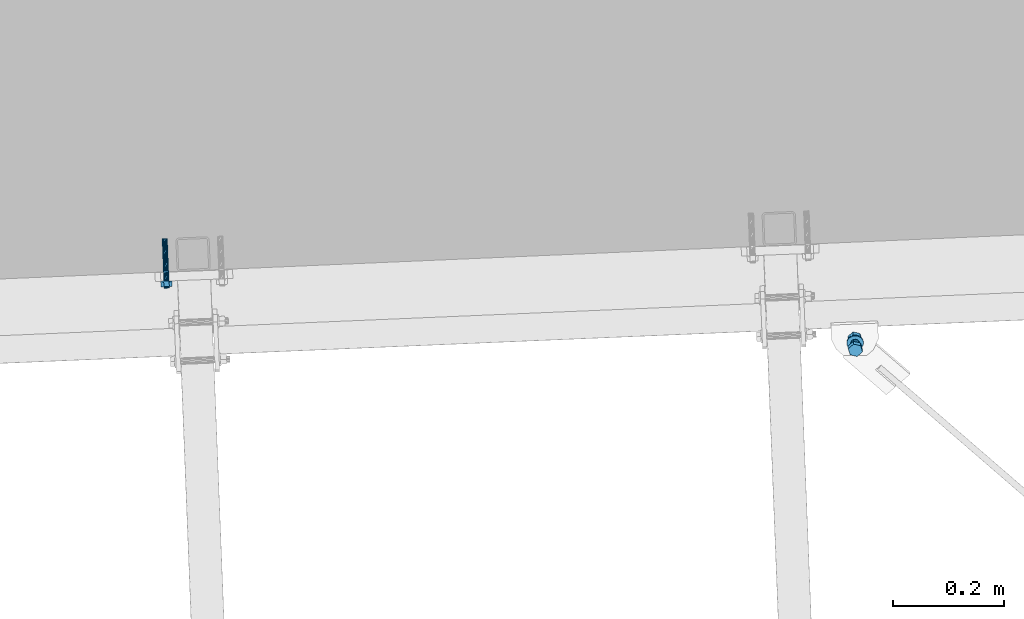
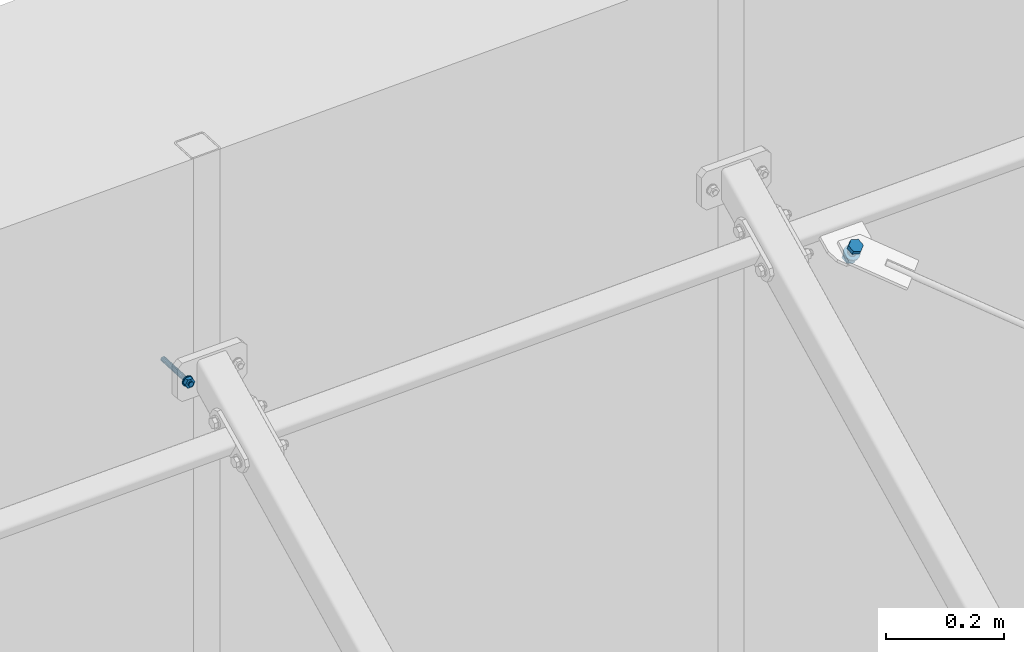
# One storey, part 266 of 288: 2 mechanical fasteners.
"""IFC2X3 building model written with IfcOpenShell, lengths in millimetres."""

from ifc_helpers import new_model, entity, si_unit, converted_unit, origin_with_axes, place, context, project, spatial, faceted_brep, element, save


model = new_model("IFC2X3")

# Units and contexts
model_context = context("Model", 3, precision=1e-09, world=origin_with_axes())
ifc_project = project(units=[si_unit("LENGTHUNIT", "METRE", prefix="MILLI"), si_unit("AREAUNIT", "SQUARE_METRE"), si_unit("VOLUMEUNIT", "CUBIC_METRE"), converted_unit("PLANEANGLEUNIT", "DEGREE", entity("IfcPlaneAngleMeasure", 0.01745329), si_unit("PLANEANGLEUNIT", "RADIAN"), dimensions=[0, 0, 0, 0, 0, 0, 0])], contexts=[model_context])

# Site, building, storey
site_placement = place(None, origin_with_axes())
site = spatial("IfcSite", under=ifc_project, at=site_placement, Name="Remont ?wietlik?w nad MC w NCPP w Opolu", CompositionType="ELEMENT")
building_placement = place(site_placement, origin_with_axes())
building = spatial("IfcBuilding", under=site, at=building_placement, Name="Konstrukcja 1", CompositionType="ELEMENT")
storey_placement = place(building_placement, origin_with_axes())
storey = spatial("IfcBuildingStorey", under=building, at=storey_placement, Name="Default Storey", CompositionType="ELEMENT", Elevation=0.0)

# Mechanical fasteners
mechanical_fastener_1_placement = place(None, origin_with_axes())
element("IfcMechanicalFastener", 1, at=mechanical_fastener_1_placement, inside=storey, ObjectType="Anchor_Bolt", NominalDiameter=10.0, NominalLength=90.0, context=model_context, shape_type="Brep", body=[
    faceted_brep([(5474.513703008, 15768.755077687, 1298.012418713), (5474.434916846, 15770.75352527, 1298.012418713), (5472.388058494, 15770.672830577, 1297.810664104), (5472.466844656, 15768.674382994, 1297.810664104), (5470.41985977, 15770.595236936, 1297.213153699), (5470.498645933, 15768.596789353, 1297.213153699), (5468.605957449, 15770.523726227, 1296.24284949), (5468.684743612, 15768.525278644, 1296.24284949), (5467.016058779, 15770.461046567, 1294.937039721), (5467.094844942, 15768.462598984, 1294.937039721), (5465.711262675, 15770.4096067, 1293.345905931), (5465.790048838, 15768.411159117, 1293.345905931), (5464.741711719, 15770.371383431, 1291.530594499), (5464.820497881, 15768.372935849, 1291.530594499), (5464.14466521, 15770.347845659, 1289.560866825), (5464.223451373, 15768.349398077, 1289.560866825), (5463.943067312, 15770.339897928, 1287.512418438), (5464.021853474, 15768.341450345, 1287.512418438), (5464.144665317, 15770.347845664, 1285.463970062), (5464.22345148, 15768.349398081, 1285.463970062), (5464.741711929, 15770.371383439, 1283.494242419), (5464.820498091, 15768.372935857, 1283.494242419), (5465.71126298, 15770.409606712, 1281.678931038), (5465.790049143, 15768.411159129, 1281.678931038), (5467.016059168, 15770.461046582, 1280.087797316), (5467.09484533, 15768.462599, 1280.087797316), (5468.605957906, 15770.523726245, 1278.781987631), (5468.684744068, 15768.525278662, 1278.781987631), (5470.419860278, 15770.595236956, 1277.811683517), (5470.49864644, 15768.596789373, 1277.811683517), (5472.388059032, 15770.672830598, 1277.214173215), (5472.466845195, 15768.674383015, 1277.214173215), (5474.434917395, 15770.753525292, 1277.012418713), (5474.513703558, 15768.755077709, 1277.012418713), (5476.481775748, 15770.834219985, 1277.214173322), (5476.56056191, 15768.835772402, 1277.214173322), (5478.449974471, 15770.911813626, 1277.811683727), (5478.528760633, 15768.913366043, 1277.811683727), (5480.263876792, 15770.983324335, 1278.781987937), (5480.342662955, 15768.984876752, 1278.781987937), (5481.853775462, 15771.046003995, 1280.087797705), (5481.932561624, 15769.047556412, 1280.087797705), (5483.158571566, 15771.097443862, 1281.678931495), (5483.237357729, 15769.098996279, 1281.678931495), (5484.128122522, 15771.13566713, 1283.494242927), (5484.206908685, 15769.137219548, 1283.494242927), (5484.725169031, 15771.159204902, 1285.463970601), (5484.803955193, 15769.16075732, 1285.463970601), (5484.92676693, 15771.167152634, 1287.512418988), (5485.005553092, 15769.168705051, 1287.512418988), (5484.725168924, 15771.159204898, 1289.560867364), (5484.803955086, 15769.160757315, 1289.560867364), (5484.128122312, 15771.135667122, 1291.530595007), (5484.206908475, 15769.137219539, 1291.530595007), (5483.158571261, 15771.09744385, 1293.345906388), (5483.237357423, 15769.098996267, 1293.345906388), (5481.853775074, 15771.046003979, 1294.93704011), (5481.932561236, 15769.047556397, 1294.93704011), (5480.263876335, 15770.983324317, 1296.242849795), (5480.342662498, 15768.984876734, 1296.242849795), (5478.449973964, 15770.911813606, 1297.21315391), (5478.528760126, 15768.913366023, 1297.21315391), (5476.481775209, 15770.834219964, 1297.810664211), (5476.560561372, 15768.835772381, 1297.810664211)], [[[0, 1, 2, 3]], [[3, 2, 4, 5]], [[5, 4, 6, 7]], [[7, 6, 8, 9]], [[9, 8, 10, 11]], [[11, 10, 12, 13]], [[13, 12, 14, 15]], [[15, 14, 16, 17]], [[17, 16, 18, 19]], [[19, 18, 20, 21]], [[21, 20, 22, 23]], [[23, 22, 24, 25]], [[25, 24, 26, 27]], [[27, 26, 28, 29]], [[29, 28, 30, 31]], [[31, 30, 32, 33]], [[33, 32, 34, 35]], [[35, 34, 36, 37]], [[37, 36, 38, 39]], [[39, 38, 40, 41]], [[41, 40, 42, 43]], [[43, 42, 44, 45]], [[45, 44, 46, 47]], [[47, 46, 48, 49]], [[49, 48, 50, 51]], [[51, 50, 52, 53]], [[53, 52, 54, 55]], [[55, 54, 56, 57]], [[57, 56, 58, 59]], [[59, 58, 60, 61]], [[61, 60, 62, 63]], [[63, 62, 1, 0]], [[0, 3, 5, 7, 9, 11, 13, 15, 17, 19, 21, 23, 25, 27, 29, 31, 33, 35, 37, 39, 41, 43, 45, 47, 49, 51, 53, 55, 57, 59, 61, 63]], [[1, 62, 60, 58, 56, 54, 52, 50, 48, 46, 44, 42, 40, 38, 36, 34, 32, 30, 28, 26, 24, 22, 20, 18, 16, 14, 12, 10, 8, 6, 4, 2]]]),
    faceted_brep([(5469.617506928, 15768.562051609, 1279.025369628), (5469.932651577, 15760.568261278, 1279.025369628), (5465.036454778, 15760.375235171, 1287.512418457), (5464.721310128, 15768.369025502, 1287.512418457), (5469.932651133, 15760.568261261, 1295.999467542), (5469.617506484, 15768.562051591, 1295.999467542), (5479.725044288, 15760.954313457, 1295.999467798), (5479.409899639, 15768.948103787, 1295.999467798), (5484.621241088, 15761.147339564, 1287.51241897), (5484.306096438, 15769.141129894, 1287.51241897), (5479.725044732, 15760.954313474, 1279.025369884), (5479.409900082, 15768.948103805, 1279.025369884)], [[[0, 1, 2, 3]], [[3, 2, 4, 5]], [[5, 4, 6, 7]], [[7, 6, 8, 9]], [[9, 8, 10, 11]], [[11, 10, 1, 0]], [[4, 2, 1, 10, 8, 6]], [[0, 3, 5, 7, 9, 11]]]),
    faceted_brep([(5474.947027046, 15757.763615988, 1292.512418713), (5474.828847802, 15760.761287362, 1292.512418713), (5472.916915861, 15760.685911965, 1292.131816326), (5473.035095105, 15757.688240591, 1292.131816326), (5471.296058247, 15760.62201179, 1291.047952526), (5471.41423749, 15757.624340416, 1291.047952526), (5470.213035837, 15760.579315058, 1289.425835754), (5470.331215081, 15757.581643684, 1289.425835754), (5469.832728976, 15760.564321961, 1287.512418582), (5469.95090822, 15757.566650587, 1287.512418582), (5470.213035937, 15760.579315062, 1285.59900143), (5470.331215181, 15757.581643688, 1285.59900143), (5471.296058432, 15760.622011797, 1283.976884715), (5471.414237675, 15757.624340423, 1283.976884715), (5472.916916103, 15760.685911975, 1282.893021), (5473.035095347, 15757.688240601, 1282.893021), (5474.828848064, 15760.761287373, 1282.512418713), (5474.947027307, 15757.763615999, 1282.512418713), (5476.740780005, 15760.83666277, 1282.893021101), (5476.858959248, 15757.838991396, 1282.893021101), (5478.361637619, 15760.900562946, 1283.9768849), (5478.479816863, 15757.902891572, 1283.9768849), (5479.444660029, 15760.943259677, 1285.599001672), (5479.562839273, 15757.945588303, 1285.599001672), (5479.82496689, 15760.958252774, 1287.512418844), (5479.943146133, 15757.9605814, 1287.512418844), (5479.444659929, 15760.943259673, 1289.425835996), (5479.562839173, 15757.945588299, 1289.425835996), (5478.361637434, 15760.900562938, 1291.047952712), (5478.479816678, 15757.902891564, 1291.047952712), (5476.740779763, 15760.83666276, 1292.131816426), (5476.858959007, 15757.838991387, 1292.131816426)], [[[0, 1, 2, 3]], [[3, 2, 4, 5]], [[5, 4, 6, 7]], [[7, 6, 8, 9]], [[9, 8, 10, 11]], [[11, 10, 12, 13]], [[13, 12, 14, 15]], [[15, 14, 16, 17]], [[17, 16, 18, 19]], [[19, 18, 20, 21]], [[21, 20, 22, 23]], [[23, 22, 24, 25]], [[25, 24, 26, 27]], [[27, 26, 28, 29]], [[29, 28, 30, 31]], [[31, 30, 1, 0]], [[0, 3, 5, 7, 9, 11, 13, 15, 17, 19, 21, 23, 25, 27, 29, 31]], [[1, 30, 28, 26, 24, 22, 20, 18, 16, 14, 12, 10, 8, 6, 4, 2]]]),
    faceted_brep([(5474.43491699, 15770.753525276, 1292.512418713), (5473.80462769, 15786.741105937, 1292.512418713), (5471.892695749, 15786.66573054, 1292.131816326), (5472.522985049, 15770.678149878, 1292.131816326), (5470.271838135, 15786.601830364, 1291.047952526), (5470.902127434, 15770.614249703, 1291.047952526), (5469.188815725, 15786.559133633, 1289.425835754), (5469.819105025, 15770.571552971, 1289.425835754), (5468.808508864, 15786.544140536, 1287.512418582), (5469.438798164, 15770.556559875, 1287.512418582), (5469.188815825, 15786.559133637, 1285.59900143), (5469.819105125, 15770.571552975, 1285.59900143), (5470.27183832, 15786.601830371, 1283.976884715), (5470.902127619, 15770.61424971, 1283.976884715), (5471.892695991, 15786.665730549, 1282.893021), (5472.522985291, 15770.678149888, 1282.893021), (5473.804627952, 15786.741105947, 1282.512418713), (5474.434917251, 15770.753525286, 1282.512418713), (5475.716559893, 15786.816481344, 1282.893021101), (5476.346849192, 15770.828900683, 1282.893021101), (5477.337417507, 15786.88038152, 1283.9768849), (5477.967706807, 15770.892800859, 1283.9768849), (5478.420439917, 15786.923078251, 1285.599001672), (5479.050729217, 15770.93549759, 1285.599001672), (5478.800746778, 15786.938071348, 1287.512418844), (5479.431036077, 15770.950490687, 1287.512418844), (5478.420439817, 15786.923078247, 1289.425835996), (5479.050729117, 15770.935497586, 1289.425835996), (5477.337417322, 15786.880381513, 1291.047952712), (5477.967706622, 15770.892800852, 1291.047952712), (5475.716559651, 15786.816481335, 1292.131816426), (5476.346848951, 15770.828900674, 1292.131816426)], [[[0, 1, 2, 3]], [[3, 2, 4, 5]], [[5, 4, 6, 7]], [[7, 6, 8, 9]], [[9, 8, 10, 11]], [[11, 10, 12, 13]], [[13, 12, 14, 15]], [[15, 14, 16, 17]], [[17, 16, 18, 19]], [[19, 18, 20, 21]], [[21, 20, 22, 23]], [[23, 22, 24, 25]], [[25, 24, 26, 27]], [[27, 26, 28, 29]], [[29, 28, 30, 31]], [[31, 30, 1, 0]], [[0, 3, 5, 7, 9, 11, 13, 15, 17, 19, 21, 23, 25, 27, 29, 31]], [[1, 30, 28, 26, 24, 22, 20, 18, 16, 14, 12, 10, 8, 6, 4, 2]]]),
    faceted_brep([(5473.80462769, 15786.741105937, 1292.512418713), (5473.765234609, 15787.740329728, 1292.512418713), (5472.790540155, 15787.701903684, 1292.41634509), (5472.829933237, 15786.702679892, 1292.41634509), (5471.853302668, 15787.664954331, 1292.131816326), (5471.892695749, 15786.66573054, 1292.131816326), (5470.989539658, 15787.630901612, 1291.669766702), (5471.028932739, 15786.631677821, 1291.669766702), (5470.232445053, 15787.601054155, 1291.047952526), (5470.271838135, 15786.601830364, 1291.047952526), (5469.611113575, 15787.576558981, 1290.290269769), (5469.650506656, 15786.577335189, 1290.290269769), (5469.149422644, 15787.558357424, 1289.425835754), (5469.188815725, 15786.559133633, 1289.425835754), (5468.865114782, 15787.547148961, 1288.487870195), (5468.904507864, 15786.54792517, 1288.487870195), (5468.769115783, 15787.543364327, 1287.512418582), (5468.808508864, 15786.544140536, 1287.512418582), (5468.865114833, 15787.547148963, 1286.536966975), (5468.904507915, 15786.547925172, 1286.536966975), (5469.149422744, 15787.558357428, 1285.59900143), (5469.188815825, 15786.559133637, 1285.59900143), (5469.61111372, 15787.576558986, 1284.734567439), (5469.650506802, 15786.577335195, 1284.734567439), (5470.232445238, 15787.601054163, 1283.976884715), (5470.27183832, 15786.601830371, 1283.976884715), (5470.989539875, 15787.630901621, 1283.355070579), (5471.028932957, 15786.63167783, 1283.355070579), (5471.85330291, 15787.66495434, 1282.893021), (5471.892695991, 15786.665730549, 1282.893021), (5472.790540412, 15787.701903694, 1282.608492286), (5472.829933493, 15786.702679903, 1282.608492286), (5473.76523487, 15787.740329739, 1282.512418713), (5473.804627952, 15786.741105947, 1282.512418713), (5474.739929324, 15787.778755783, 1282.608492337), (5474.779322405, 15786.779531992, 1282.608492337), (5475.677166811, 15787.815705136, 1282.893021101), (5475.716559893, 15786.816481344, 1282.893021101), (5476.540929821, 15787.849757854, 1283.355070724), (5476.580322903, 15786.850534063, 1283.355070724), (5477.298024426, 15787.879605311, 1283.9768849), (5477.337417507, 15786.88038152, 1283.9768849), (5477.919355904, 15787.904100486, 1284.734567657), (5477.958748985, 15786.904876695, 1284.734567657), (5478.381046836, 15787.922302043, 1285.599001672), (5478.420439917, 15786.923078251, 1285.599001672), (5478.665354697, 15787.933510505, 1286.536967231), (5478.704747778, 15786.934286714, 1286.536967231), (5478.761353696, 15787.93729514, 1287.512418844), (5478.800746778, 15786.938071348, 1287.512418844), (5478.665354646, 15787.933510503, 1288.487870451), (5478.704747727, 15786.934286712, 1288.487870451), (5478.381046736, 15787.922302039, 1289.425835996), (5478.420439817, 15786.923078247, 1289.425835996), (5477.919355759, 15787.90410048, 1290.290269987), (5477.95874884, 15786.904876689, 1290.290269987), (5477.298024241, 15787.879605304, 1291.047952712), (5477.337417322, 15786.880381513, 1291.047952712), (5476.540929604, 15787.849757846, 1291.669766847), (5476.580322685, 15786.850534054, 1291.669766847), (5475.67716657, 15787.815705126, 1292.131816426), (5475.716559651, 15786.816481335, 1292.131816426), (5474.739929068, 15787.778755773, 1292.416345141), (5474.779322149, 15786.779531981, 1292.416345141)], [[[0, 1, 2, 3]], [[3, 2, 4, 5]], [[5, 4, 6, 7]], [[7, 6, 8, 9]], [[9, 8, 10, 11]], [[11, 10, 12, 13]], [[13, 12, 14, 15]], [[15, 14, 16, 17]], [[17, 16, 18, 19]], [[19, 18, 20, 21]], [[21, 20, 22, 23]], [[23, 22, 24, 25]], [[25, 24, 26, 27]], [[27, 26, 28, 29]], [[29, 28, 30, 31]], [[31, 30, 32, 33]], [[33, 32, 34, 35]], [[35, 34, 36, 37]], [[37, 36, 38, 39]], [[39, 38, 40, 41]], [[41, 40, 42, 43]], [[43, 42, 44, 45]], [[45, 44, 46, 47]], [[47, 46, 48, 49]], [[49, 48, 50, 51]], [[51, 50, 52, 53]], [[53, 52, 54, 55]], [[55, 54, 56, 57]], [[57, 56, 58, 59]], [[59, 58, 60, 61]], [[61, 60, 62, 63]], [[63, 62, 1, 0]], [[0, 3, 5, 7, 9, 11, 13, 15, 17, 19, 21, 23, 25, 27, 29, 31, 33, 35, 37, 39, 41, 43, 45, 47, 49, 51, 53, 55, 57, 59, 61, 63]], [[1, 62, 60, 58, 56, 54, 52, 50, 48, 46, 44, 42, 40, 38, 36, 34, 32, 30, 28, 26, 24, 22, 20, 18, 16, 14, 12, 10, 8, 6, 4, 2]]]),
    faceted_brep([(5473.765234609, 15787.740329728, 1292.512418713), (5471.401649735, 15847.693757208, 1292.512418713), (5469.489717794, 15847.61838181, 1292.131816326), (5471.853302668, 15787.664954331, 1292.131816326), (5467.868860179, 15847.554481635, 1291.047952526), (5470.232445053, 15787.601054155, 1291.047952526), (5466.78583777, 15847.511784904, 1289.425835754), (5469.149422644, 15787.558357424, 1289.425835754), (5466.405530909, 15847.496791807, 1287.512418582), (5468.769115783, 15787.543364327, 1287.512418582), (5466.78583787, 15847.511784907, 1285.59900143), (5469.149422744, 15787.558357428, 1285.59900143), (5467.868860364, 15847.554481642, 1283.976884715), (5470.232445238, 15787.601054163, 1283.976884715), (5469.489718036, 15847.61838182, 1282.893021), (5471.85330291, 15787.66495434, 1282.893021), (5471.401649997, 15847.693757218, 1282.512418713), (5473.76523487, 15787.740329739, 1282.512418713), (5473.313581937, 15847.769132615, 1282.893021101), (5475.677166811, 15787.815705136, 1282.893021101), (5474.934439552, 15847.833032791, 1283.9768849), (5477.298024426, 15787.879605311, 1283.9768849), (5476.017461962, 15847.875729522, 1285.599001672), (5478.381046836, 15787.922302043, 1285.599001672), (5476.397768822, 15847.890722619, 1287.512418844), (5478.761353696, 15787.93729514, 1287.512418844), (5476.017461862, 15847.875729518, 1289.425835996), (5478.381046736, 15787.922302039, 1289.425835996), (5474.934439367, 15847.833032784, 1291.047952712), (5477.298024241, 15787.879605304, 1291.047952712), (5473.313581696, 15847.769132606, 1292.131816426), (5475.67716657, 15787.815705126, 1292.131816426)], [[[0, 1, 2, 3]], [[3, 2, 4, 5]], [[5, 4, 6, 7]], [[7, 6, 8, 9]], [[9, 8, 10, 11]], [[11, 10, 12, 13]], [[13, 12, 14, 15]], [[15, 14, 16, 17]], [[17, 16, 18, 19]], [[19, 18, 20, 21]], [[21, 20, 22, 23]], [[23, 22, 24, 25]], [[25, 24, 26, 27]], [[27, 26, 28, 29]], [[29, 28, 30, 31]], [[31, 30, 1, 0]], [[0, 3, 5, 7, 9, 11, 13, 15, 17, 19, 21, 23, 25, 27, 29, 31]], [[1, 30, 28, 26, 24, 22, 20, 18, 16, 14, 12, 10, 8, 6, 4, 2]]]),
])
mechanical_fastener_2_placement = place(None, origin_with_axes())
element("IfcMechanicalFastener", 2, at=mechanical_fastener_2_placement, inside=storey, ObjectType="Bolt#1", NominalDiameter=16.0, NominalLength=40.0, context=model_context, shape_type="Brep", body=[
    faceted_brep([(6729.310160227, 15643.041664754, 1207.31794412), (6729.094210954, 15648.076801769, 1198.680770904), (6725.710514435, 15659.218843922, 1205.260749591), (6725.926463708, 15654.183706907, 1213.897922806), (6712.815168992, 15662.135798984, 1207.283634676), (6713.031118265, 15657.100661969, 1215.920807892), (6703.303520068, 15653.910711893, 1202.726541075), (6703.519469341, 15648.875574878, 1211.36371429), (6706.687216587, 15642.76866974, 1196.146562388), (6706.90316586, 15637.733532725, 1204.783735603), (6719.58256203, 15639.851714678, 1194.123677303), (6719.798511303, 15634.816577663, 1202.760850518)], [[[0, 1, 2, 3]], [[3, 2, 4, 5]], [[5, 4, 6, 7]], [[7, 6, 8, 9]], [[9, 8, 10, 11]], [[11, 10, 1, 0]], [[3, 5, 7, 9, 11, 0]], [[2, 1, 10, 8, 6, 4]]]),
    faceted_brep([(6710.2316888, 15663.904983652, 1189.855014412), (6710.577207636, 15655.848764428, 1203.674491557), (6713.182297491, 15657.361878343, 1204.491445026), (6712.836778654, 15665.418097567, 1190.671967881), (6716.246632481, 15657.905503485, 1204.731741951), (6715.901113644, 15665.961722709, 1190.912264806), (6719.303695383, 15657.396877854, 1204.358799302), (6718.958176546, 15665.453097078, 1190.539322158), (6721.888076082, 15655.913435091, 1203.429394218), (6721.542557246, 15663.969654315, 1189.609917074), (6723.606326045, 15653.681015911, 1202.085020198), (6723.260807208, 15661.737235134, 1188.265543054), (6724.19685729, 15651.039485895, 1200.530345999), (6723.851338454, 15659.095705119, 1186.710868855), (6723.569766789, 15648.390994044, 1199.002056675), (6723.224247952, 15656.447213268, 1185.182579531), (6721.820523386, 15646.138749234, 1197.732820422), (6721.475004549, 15654.194968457, 1183.913343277), (6719.215433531, 15644.625635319, 1196.915866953), (6718.869914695, 15652.681854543, 1183.096389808), (6716.151098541, 15644.082010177, 1196.675570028), (6715.805579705, 15652.138229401, 1182.856092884), (6713.094035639, 15644.590635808, 1197.048512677), (6712.748516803, 15652.646855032, 1183.229035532), (6710.50965494, 15646.074078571, 1197.977917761), (6710.164136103, 15654.130297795, 1184.158440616), (6708.791404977, 15648.306497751, 1199.322291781), (6708.44588614, 15656.362716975, 1185.502814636), (6708.200873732, 15650.948027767, 1200.87696598), (6707.855354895, 15659.004246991, 1187.057488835), (6708.827964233, 15653.596519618, 1202.405255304), (6708.482445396, 15661.652738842, 1188.585778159)], [[[0, 1, 2, 3]], [[3, 2, 4, 5]], [[5, 4, 6, 7]], [[7, 6, 8, 9]], [[9, 8, 10, 11]], [[11, 10, 12, 13]], [[13, 12, 14, 15]], [[15, 14, 16, 17]], [[17, 16, 18, 19]], [[19, 18, 20, 21]], [[21, 20, 22, 23]], [[23, 22, 24, 25]], [[25, 24, 26, 27]], [[27, 26, 28, 29]], [[29, 28, 30, 31]], [[31, 30, 1, 0]], [[2, 1, 30, 28, 26, 24, 22, 20, 18, 16, 14, 12, 10, 8, 6, 4]], [[31, 0, 3, 5, 7, 9, 11, 13, 15, 17, 19, 21, 23, 25, 27, 29]]]),
    faceted_brep([(6705.247953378, 15669.663656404, 1189.863343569), (6705.312738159, 15668.1531153, 1192.454495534), (6707.596354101, 15669.777791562, 1193.344523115), (6707.531569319, 15671.288332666, 1190.75337115), (6710.197281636, 15670.99020389, 1193.986283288), (6710.132496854, 15672.500744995, 1191.395131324), (6713.015568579, 15671.743759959, 1194.355113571), (6712.950783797, 15673.254301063, 1191.763961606), (6715.942909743, 15672.009501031, 1194.436840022), (6715.878124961, 15673.520042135, 1191.845688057), (6718.866809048, 15671.777214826, 1194.228321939), (6718.802024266, 15673.28775593, 1191.637169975), (6721.674902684, 15671.055827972, 1193.737572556), (6721.610117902, 15672.566369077, 1191.146420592), (6724.259277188, 15669.873062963, 1192.983451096), (6724.194492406, 15671.383604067, 1190.392299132), (6726.520616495, 15668.274372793, 1191.994938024), (6726.455831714, 15669.784913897, 1189.40378606), (6728.372018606, 15666.321194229, 1190.810021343), (6728.307233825, 15667.831735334, 1188.218869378), (6729.742335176, 15664.088586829, 1189.474236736), (6729.677550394, 15665.599127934, 1186.883084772), (6730.578905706, 15661.662348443, 1188.038917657), (6730.514120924, 15663.172889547, 1185.447765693), (6730.84958126, 15659.13571805, 1186.559222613), (6730.784796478, 15660.646259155, 1183.968070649), (6730.54395993, 15656.605792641, 1185.092015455), (6730.479175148, 15658.116333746, 1182.50086349), (6729.673786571, 15654.16979583, 1183.693680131), (6729.609001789, 15655.680336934, 1181.102528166), (6728.272501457, 15651.921341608, 1182.417953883), (6728.207716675, 15653.431882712, 1179.826801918), (6726.393955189, 15649.94683681, 1181.313862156), (6726.329170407, 15651.457377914, 1178.722710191), (6724.110339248, 15648.322160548, 1180.423834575), (6724.045554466, 15649.832701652, 1177.83268261), (6721.509411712, 15647.10974822, 1179.782074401), (6721.444626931, 15648.620289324, 1177.190922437), (6718.69112477, 15646.356192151, 1179.413244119), (6718.626339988, 15647.866733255, 1176.822092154), (6715.763783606, 15646.090451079, 1179.331517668), (6715.698998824, 15647.600992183, 1176.740365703), (6712.839884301, 15646.322737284, 1179.54003575), (6712.775099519, 15647.833278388, 1176.948883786), (6710.031790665, 15647.044124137, 1180.030785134), (6709.967005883, 15648.554665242, 1177.439633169), (6707.447416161, 15648.226889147, 1180.784906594), (6707.382631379, 15649.737430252, 1178.193754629), (6705.186076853, 15649.825579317, 1181.773419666), (6705.121292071, 15651.336120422, 1179.182267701), (6703.334674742, 15651.778757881, 1182.958336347), (6703.26988996, 15653.289298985, 1180.367184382), (6701.964358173, 15654.011365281, 1184.294120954), (6701.899573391, 15655.521906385, 1181.702968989), (6701.127787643, 15656.437603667, 1185.729440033), (6701.063002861, 15657.948144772, 1183.138288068), (6700.857112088, 15658.96423406, 1187.209135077), (6700.792327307, 15660.474775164, 1184.617983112), (6701.162733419, 15661.494159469, 1188.676342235), (6701.097948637, 15663.004700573, 1186.08519027), (6702.032906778, 15663.93015628, 1190.074677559), (6701.968121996, 15665.440697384, 1187.483525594), (6703.434191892, 15666.178610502, 1191.350403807), (6703.36940711, 15667.689151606, 1188.759251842)], [[[0, 1, 2, 3]], [[3, 2, 4, 5]], [[5, 4, 6, 7]], [[7, 6, 8, 9]], [[9, 8, 10, 11]], [[11, 10, 12, 13]], [[13, 12, 14, 15]], [[15, 14, 16, 17]], [[17, 16, 18, 19]], [[19, 18, 20, 21]], [[21, 20, 22, 23]], [[23, 22, 24, 25]], [[25, 24, 26, 27]], [[27, 26, 28, 29]], [[29, 28, 30, 31]], [[31, 30, 32, 33]], [[33, 32, 34, 35]], [[35, 34, 36, 37]], [[37, 36, 38, 39]], [[39, 38, 40, 41]], [[41, 40, 42, 43]], [[43, 42, 44, 45]], [[45, 44, 46, 47]], [[47, 46, 48, 49]], [[49, 48, 50, 51]], [[51, 50, 52, 53]], [[53, 52, 54, 55]], [[55, 54, 56, 57]], [[57, 56, 58, 59]], [[59, 58, 60, 61]], [[61, 60, 62, 63]], [[63, 62, 1, 0]], [[2, 1, 62, 60, 58, 56, 54, 52, 50, 48, 46, 44, 42, 40, 38, 36, 34, 32, 30, 28, 26, 24, 22, 20, 18, 16, 14, 12, 10, 8, 6, 4]], [[63, 0, 3, 5, 7, 9, 11, 13, 15, 17, 19, 21, 23, 25, 27, 29, 31, 33, 35, 37, 39, 41, 43, 45, 47, 49, 51, 53, 55, 57, 59, 61]]]),
    faceted_brep([(6728.683907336, 15657.643562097, 1182.270141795), (6728.364302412, 15665.095564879, 1169.487125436), (6724.980605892, 15676.237607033, 1176.067104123), (6725.300210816, 15668.785604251, 1188.850120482), (6712.085260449, 15679.154562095, 1178.089989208), (6712.404865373, 15671.702559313, 1190.873005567), (6702.573611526, 15670.929475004, 1173.532895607), (6702.893216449, 15663.477472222, 1186.315911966), (6705.957308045, 15659.78743285, 1166.95291692), (6706.276912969, 15652.335430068, 1179.735933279), (6718.852653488, 15656.870477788, 1164.930031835), (6719.172258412, 15649.418475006, 1177.713048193)], [[[0, 1, 2, 3]], [[3, 2, 4, 5]], [[5, 4, 6, 7]], [[7, 6, 8, 9]], [[9, 8, 10, 11]], [[11, 10, 1, 0]], [[3, 5, 7, 9, 11, 0]], [[2, 1, 10, 8, 6, 4]]]),
    faceted_brep([(6709.713410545, 15675.989312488, 1169.125798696), (6709.847299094, 15672.867527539, 1174.480846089), (6712.452388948, 15674.380641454, 1175.297799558), (6712.318500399, 15677.502426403, 1169.942752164), (6715.516723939, 15674.924266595, 1175.538096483), (6715.382835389, 15678.046051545, 1170.183049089), (6718.573786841, 15674.415640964, 1175.165153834), (6718.439898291, 15677.537425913, 1169.810106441), (6721.15816754, 15672.932198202, 1174.23574875), (6721.024278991, 15676.053983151, 1168.880701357), (6722.876417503, 15670.699779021, 1172.89137473), (6722.742528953, 15673.82156397, 1167.536327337), (6723.466948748, 15668.058249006, 1171.336700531), (6723.333060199, 15671.180033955, 1165.981653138), (6722.839858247, 15665.409757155, 1169.808411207), (6722.705969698, 15668.531542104, 1164.453363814), (6721.090614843, 15663.157512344, 1168.539174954), (6720.956726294, 15666.279297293, 1163.18412756), (6718.485524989, 15661.644398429, 1167.722221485), (6718.35163644, 15664.766183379, 1162.367174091), (6715.421189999, 15661.100773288, 1167.48192456), (6715.28730145, 15664.222558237, 1162.126877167), (6712.364127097, 15661.609398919, 1167.854867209), (6712.230238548, 15664.731183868, 1162.499819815), (6709.779746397, 15663.092841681, 1168.784272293), (6709.645857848, 15666.214626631, 1163.429224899), (6708.061496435, 15665.325260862, 1170.128646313), (6707.927607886, 15668.447045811, 1164.773598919), (6707.470965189, 15667.966790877, 1171.683320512), (6707.33707664, 15671.088575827, 1166.328273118), (6708.098055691, 15670.615282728, 1173.211609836), (6707.964167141, 15673.737067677, 1167.856562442)], [[[0, 1, 2, 3]], [[3, 2, 4, 5]], [[5, 4, 6, 7]], [[7, 6, 8, 9]], [[9, 8, 10, 11]], [[11, 10, 12, 13]], [[13, 12, 14, 15]], [[15, 14, 16, 17]], [[17, 16, 18, 19]], [[19, 18, 20, 21]], [[21, 20, 22, 23]], [[23, 22, 24, 25]], [[25, 24, 26, 27]], [[27, 26, 28, 29]], [[29, 28, 30, 31]], [[31, 30, 1, 0]], [[2, 1, 30, 28, 26, 24, 22, 20, 18, 16, 14, 12, 10, 8, 6, 4]], [[31, 0, 3, 5, 7, 9, 11, 13, 15, 17, 19, 21, 23, 25, 27, 29]]]),
])

save(model, "model.ifc")
